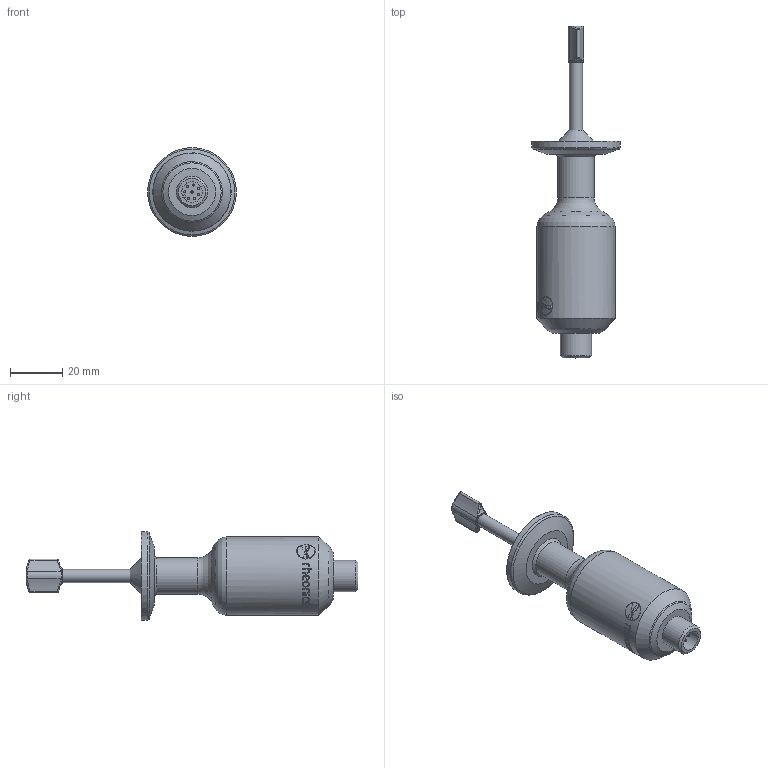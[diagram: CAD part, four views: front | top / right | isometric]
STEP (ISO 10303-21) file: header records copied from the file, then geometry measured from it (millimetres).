
FILE_DESCRIPTION(/* description */ ('Unknown'),/* implementation_level */ '2;1');
FILE_NAME(/* name */ 'SRD-X4-05T',/* time_stamp */ '2024-04-01T15:44:47-05:00',/* author */ ('Unknown'),/* organization */ ('Unknown'),/* preprocessor_version */ 'ST-DEVELOPER v16.7',/* originating_system */ 'Solid Edge',/* authorisation */ 'Unknown');
FILE_SCHEMA (('AUTOMOTIVE_DESIGN {1 0 10303 214 3 1 1}'));
Length unit declared in the file: millimetre
Products named in the file (1): SRD-X4-05T
Bounding box: 33.91 x 127.35 x 33.91 mm (x, y, z)
Volume: 40392.2 mm3; surface area: 9664.1 mm2
Topology: 1 solids, 1 shells, 208 faces, 521 edges, 328 vertices
Faces by surface type: bspline 93, cylinder 43, plane 36, cone 15, torus 13, sphere 8
Full cylindrical faces by diameter (mm): 0.8 x8, 5.019 x1, 8 x1, 12 x1, 13.9 x1, 30 x1, 34 x1
Entity records: 9380 total; most frequent: CARTESIAN_POINT 5348, ORIENTED_EDGE 906, DIRECTION 578, EDGE_CURVE 453, VERTEX_POINT 310, EDGE_LOOP 271, FACE_BOUND 271, AXIS2_PLACEMENT_3D 222
